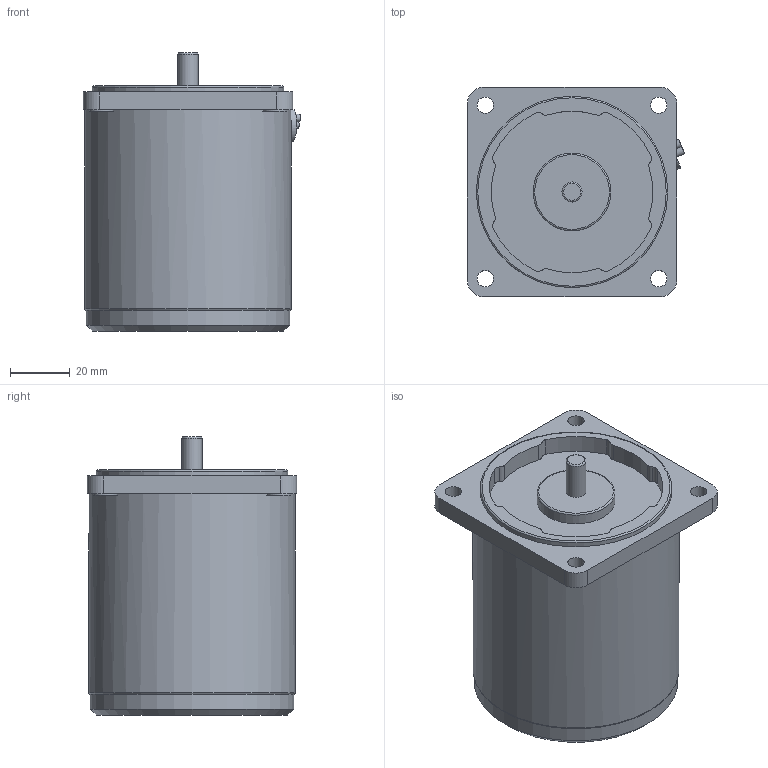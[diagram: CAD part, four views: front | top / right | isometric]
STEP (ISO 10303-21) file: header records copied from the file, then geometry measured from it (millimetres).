
FILE_DESCRIPTION((''),'2;1');
FILE_NAME('E:\2공장-도면\3D\표준형 3D(민규)\step file\K7IG15Nㅁ.stp','2014-11-11T17:20:38',('AHN'),(''),'Autodesk Inventor 2012','Autodesk Inventor 2012','');
FILE_SCHEMA(('CONFIG_CONTROL_DESIGN'));
Length unit declared in the file: millimetre
Products named in the file (1): K7IG15Nㅁ
Bounding box: 72.66 x 70 x 93 mm (x, y, z)
Volume: 298726.6 mm3; surface area: 29563.5 mm2
Topology: 1 solids, 1 shells, 74 faces, 175 edges, 109 vertices
Faces by surface type: cylinder 48, plane 21, torus 4, cone 1
Full cylindrical faces by diameter (mm): 5.5 x4, 6.7 x1, 8 x4, 26 x1, 64 x1, 68 x1, 69 x1
Entity records: 2104 total; most frequent: DIRECTION 401, CARTESIAN_POINT 363, ORIENTED_EDGE 306, AXIS2_PLACEMENT_3D 174, EDGE_CURVE 153, EDGE_LOOP 109, VERTEX_POINT 105, CIRCLE 99
